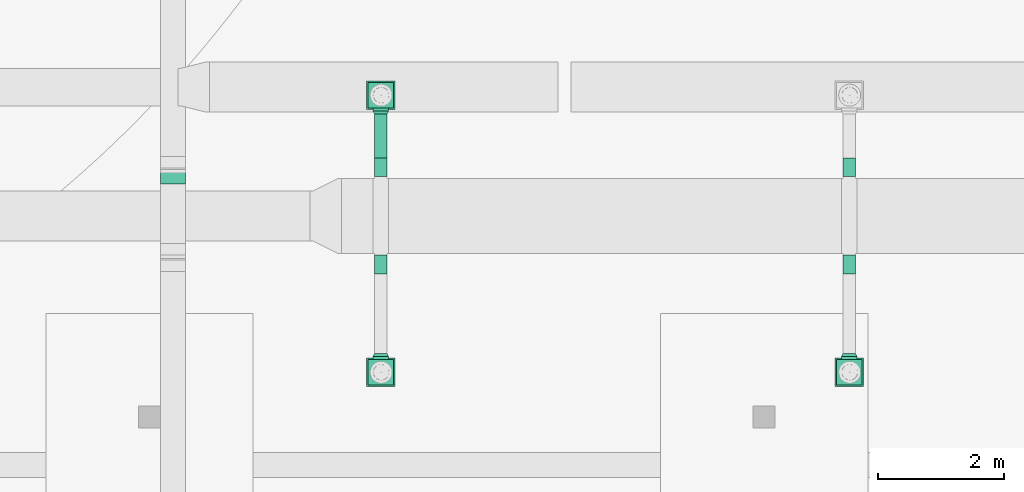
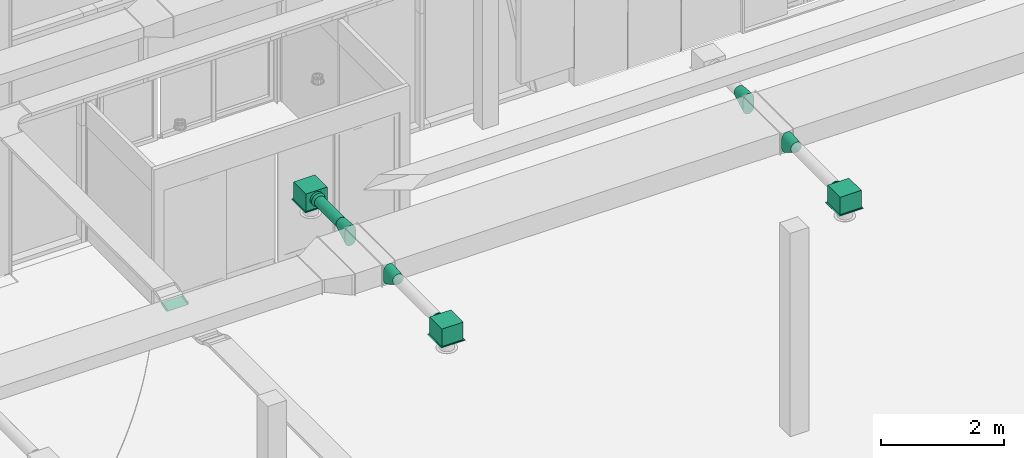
# One storey, part 282 of 302: 8 flow fittings, 3 flow terminals, 1 flow segment.
"""IFC2X3 building model written with IfcOpenShell, lengths in metres."""

from ifc_helpers import new_model, entity, si_unit, converted_unit, derived_unit, direction, frame, frame_2d, origin, origin_2d_with_axis, place, context, subcontext, project, spatial, rectangle, circle, extrude, faceted_brep, source, transform, mapped, material, material_list, type_object, type_shapes, element, save


model = new_model("IFC2X3")

# Units and contexts
model_context = context("Model", 3, precision=1e-05, world=origin(), true_north=direction((6.12303176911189e-17, 1.0)))
body_context = subcontext(model_context, "Body", "Model", "MODEL_VIEW")
ifc_project = project(units=[si_unit("LENGTHUNIT", "METRE"), si_unit("AREAUNIT", "SQUARE_METRE"), si_unit("VOLUMEUNIT", "CUBIC_METRE"), converted_unit("PLANEANGLEUNIT", "DEGREE", entity("IfcRatioMeasure", 0.0174532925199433), si_unit("PLANEANGLEUNIT", "RADIAN"), dimensions=[0, 0, 0, 0, 0, 0, 0]), si_unit("MASSUNIT", "GRAM", prefix="KILO"), derived_unit("MASSDENSITYUNIT", [(si_unit("MASSUNIT", "GRAM", prefix="KILO"), 1), (si_unit("LENGTHUNIT", "METRE"), -3)]), derived_unit("MOMENTOFINERTIAUNIT", [(si_unit("LENGTHUNIT", "METRE"), 4)]), si_unit("TIMEUNIT", "SECOND"), si_unit("FREQUENCYUNIT", "HERTZ"), si_unit("THERMODYNAMICTEMPERATUREUNIT", "DEGREE_CELSIUS"), derived_unit("THERMALTRANSMITTANCEUNIT", [(si_unit("MASSUNIT", "GRAM", prefix="KILO"), 1), (si_unit("THERMODYNAMICTEMPERATUREUNIT", "KELVIN"), -1), (si_unit("TIMEUNIT", "SECOND"), -3)]), derived_unit("VOLUMETRICFLOWRATEUNIT", [(si_unit("LENGTHUNIT", "METRE"), 3), (si_unit("TIMEUNIT", "SECOND"), -1)]), si_unit("ELECTRICCURRENTUNIT", "AMPERE"), si_unit("ELECTRICVOLTAGEUNIT", "VOLT"), si_unit("POWERUNIT", "WATT"), si_unit("FORCEUNIT", "NEWTON", prefix="KILO"), si_unit("ILLUMINANCEUNIT", "LUX"), si_unit("LUMINOUSFLUXUNIT", "LUMEN"), si_unit("LUMINOUSINTENSITYUNIT", "CANDELA"), derived_unit("USERDEFINED", [(si_unit("MASSUNIT", "GRAM", prefix="KILO"), -1), (si_unit("LENGTHUNIT", "METRE"), -2), (si_unit("TIMEUNIT", "SECOND"), 3), (si_unit("LUMINOUSFLUXUNIT", "LUMEN"), 1)]), derived_unit("LINEARVELOCITYUNIT", [(si_unit("LENGTHUNIT", "METRE"), 1), (si_unit("TIMEUNIT", "SECOND"), -1)]), si_unit("PRESSUREUNIT", "PASCAL"), derived_unit("USERDEFINED", [(si_unit("LENGTHUNIT", "METRE"), -2), (si_unit("MASSUNIT", "GRAM", prefix="KILO"), 1), (si_unit("TIMEUNIT", "SECOND"), -2)]), derived_unit("LINEARFORCEUNIT", [(si_unit("MASSUNIT", "GRAM", prefix="KILO"), 1), (si_unit("LENGTHUNIT", "METRE"), 1), (si_unit("TIMEUNIT", "SECOND"), -2), (si_unit("LENGTHUNIT", "METRE"), -1)]), derived_unit("PLANARFORCEUNIT", [(si_unit("MASSUNIT", "GRAM", prefix="KILO"), 1), (si_unit("LENGTHUNIT", "METRE"), 1), (si_unit("TIMEUNIT", "SECOND"), -2), (si_unit("LENGTHUNIT", "METRE"), -2)])], contexts=[model_context])

# Site, building, storey
site_placement = place(None, origin())
site = spatial("IfcSite", under=ifc_project, at=site_placement, Name="Default", CompositionType="ELEMENT")
building_placement = place(site_placement, origin())
building = spatial("IfcBuilding", under=site, at=building_placement, CompositionType="ELEMENT")
storey_placement = place(building_placement, frame((0.0, 0.0, -1.3)))
storey = spatial("IfcBuildingStorey", under=building, at=storey_placement, Name="00_EG", CompositionType="ELEMENT", Elevation=-1.3)

# Flow fitting
ifc_material = material(Name="<Unnamed>")
cable_carrier_fitting_type = type_object("IfcCableCarrierFittingType", Name="Kabeltrasse - Bogen innen vertikal:Standard", PredefinedType="NOTDEFINED", material=ifc_material)
shared_shape_1 = source(origin(), body_context, "Body", "Brep", [
    faceted_brep([(-0.103233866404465, -0.0299999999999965, 0.199999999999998), (-0.103233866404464, 0.0300000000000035, 0.199999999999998), (-0.103233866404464, 0.0300000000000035, -0.200000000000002), (-0.103233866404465, -0.0299999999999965, -0.200000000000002), (-0.103233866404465, -0.0299999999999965, -0.197460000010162), (-0.103233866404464, 0.0274600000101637, -0.197460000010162), (-0.103233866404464, 0.0274600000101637, 0.197460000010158), (-0.103233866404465, -0.0299999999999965, 0.197460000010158), (0.0783623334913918, -0.0735973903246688, 0.199999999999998), (0.0783623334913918, -0.0735973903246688, 0.197460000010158), (0.104448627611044, -0.0224001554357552, 0.197460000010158), (0.104448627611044, -0.0224001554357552, -0.197460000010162), (0.0783623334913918, -0.0735973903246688, -0.197460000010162), (0.0783623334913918, -0.0735973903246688, -0.200000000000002), (0.10560176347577, -0.0201369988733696, -0.200000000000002), (0.10560176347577, -0.0201369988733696, 0.199999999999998), (-0.0558907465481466, -0.0299999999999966, 0.197460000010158), (-0.0558907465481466, -0.0299999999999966, 0.199999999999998), (-0.0490899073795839, 0.0274600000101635, 0.197460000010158), (0.0562060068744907, 0.00218068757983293, 0.197460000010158), (0.036179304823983, -0.0521040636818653, 0.197460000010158), (-0.0490899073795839, 0.0274600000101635, -0.197460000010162), (-0.0558907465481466, -0.0299999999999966, -0.197460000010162), (0.036179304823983, -0.0521040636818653, -0.197460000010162), (0.0562060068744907, 0.00218068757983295, -0.197460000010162), (-0.0558907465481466, -0.0299999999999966, -0.200000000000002), (-0.0487892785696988, 0.0300000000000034, -0.200000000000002), (0.0570912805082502, 0.00458032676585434, -0.200000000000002), (0.036179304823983, -0.0521040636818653, -0.200000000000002), (-0.0487892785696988, 0.0300000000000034, 0.199999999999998), (0.036179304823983, -0.0521040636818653, 0.199999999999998), (0.0570912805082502, 0.00458032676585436, 0.199999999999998)], [[[0, 1, 2, 3, 4, 5, 6, 7]], [[8, 9, 10, 11, 12, 13, 14, 15]], [[7, 16, 17, 0]], [[6, 18, 19, 10, 9, 20, 16, 7]], [[5, 21, 18, 6]], [[4, 22, 23, 12, 11, 24, 21, 5]], [[3, 25, 22, 4]], [[2, 26, 27, 14, 13, 28, 25, 3]], [[1, 29, 26, 2]], [[0, 17, 30, 8, 15, 31, 29, 1]], [[16, 20, 30, 17]], [[21, 24, 19, 18]], [[25, 28, 23, 22]], [[29, 31, 27, 26]], [[20, 9, 8, 30]], [[24, 11, 10, 19]], [[28, 13, 12, 23]], [[31, 15, 14, 27]]]),
])
type_shapes(cable_carrier_fitting_type, [shared_shape_1])
flow_fitting_1_placement = place(storey_placement, frame((-236.772611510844, 39.2175006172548, 4.73000000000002), z_axis=(1.0, 0.0, 0.0), x_axis=(0.0, -0.89100652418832, -0.453990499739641)))
element("IfcFlowFitting", 1, at=flow_fitting_1_placement, inside=storey, type_object=cable_carrier_fitting_type, material=ifc_material, Name="Kabeltrasse - Bogen innen vertikal:Standard", ObjectType="Kabeltrasse - Bogen innen vertikal:Standard", context=body_context, shape_type="MappedRepresentation", body=[
    mapped(shared_shape_1, transform((0.0, 0.0, 0.0), scale=1.0)),
])

# Flow segment
duct_segment_type = type_object("IfcDuctSegmentType", Name="Rund:STR_Segment_RND_GS_EA", PredefinedType="NOTDEFINED")
flow_segment_placement = place(storey_placement, origin())
element("IfcFlowSegment", 2, at=flow_segment_placement, inside=storey, type_object=duct_segment_type, Name="Rund:STR_Segment_RND_GS_EA", ObjectType="Rund:STR_Segment_RND_GS_EA", context=body_context, shape_type="SweptSolid", body=[
    extrude(circle(Radius=0.1, at=frame_2d((0.0, -1.62430069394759e-15), x_axis=(1.0, 0.0))), frame((-233.465645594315, 39.5332258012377, 4.985), z_axis=(0.0, 1.0, 0.0), x_axis=(-1.0, 0.0, 0.0)), (0.0, 0.0, 1.0), 0.69789374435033),
])

# Flow terminal
ifc_material_list_1 = material_list([ifc_material, ifc_material, ifc_material])
air_terminal_type_1 = type_object("IfcAirTerminalType", Name="Drallauslass Zuluft seitlich:600 quadratisch", PredefinedType="NOTDEFINED", material=ifc_material_list_1)
shared_shape_2 = source(origin(), body_context, "Body", "SweptSolid", [
    extrude(rectangle(XDim=0.449999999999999, YDim=0.450000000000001, at=origin_2d_with_axis()), frame((0.0, 0.0, 2.692), z_axis=(0.0, 0.0, 1.0), x_axis=(-1.0, 0.0, 0.0)), (0.0, 0.0, 1.0), 0.00800000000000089),
    extrude(circle(Radius=0.125, at=frame_2d((1.22275294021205e-18, 0.0), x_axis=(1.0, 0.0))), frame((-0.25, 0.0, 2.89500000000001), z_axis=(1.0, 0.0, 0.0), x_axis=(0.0, 1.0, 0.0)), (0.0, 0.0, 1.0), 0.0499999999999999),
    extrude(rectangle(XDim=0.399999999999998, YDim=0.4, at=origin_2d_with_axis()), frame((0.0, 0.0, 2.7), z_axis=(0.0, 0.0, 1.0), x_axis=(-1.0, 0.0, 0.0)), (0.0, 0.0, 1.0), 0.345000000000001),
])
type_shapes(air_terminal_type_1, [shared_shape_2])
flow_terminal_placement = place(storey_placement, frame((-233.465645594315, 40.531119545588, 2.08999999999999), z_axis=(0.0, 0.0, 1.0), x_axis=(0.0, 1.0, 0.0)))
element("IfcFlowTerminal", 3, at=flow_terminal_placement, inside=storey, type_object=air_terminal_type_1, material=ifc_material, Name="Drallauslass Zuluft seitlich:600 quadratisch", ObjectType="Drallauslass Zuluft seitlich:600 quadratisch", context=body_context, shape_type="MappedRepresentation", body=[
    mapped(shared_shape_2, transform((0.0, 0.0, 0.0), scale=1.0)),
])

# Flow fittings
duct_fitting_type_1 = type_object("IfcDuctFittingType", Name="STR_RND_Transition:STR_Transition_RND_GS_EA", PredefinedType="NOTDEFINED", material=ifc_material)
shared_shape_3 = source(origin(), body_context, "Body", "Brep", [
    faceted_brep([(0.0500000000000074, -0.073473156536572, -0.1011271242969), (0.0500000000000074, -0.0386271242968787, -0.118882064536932), (0.0500000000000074, 0.0, -0.12500000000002), (0.0500000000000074, 0.0386271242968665, -0.11888206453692), (0.0500000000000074, 0.073473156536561, -0.101127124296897), (0.0500000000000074, 0.101127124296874, -0.0734731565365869), (0.0500000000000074, 0.1188820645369, -0.038627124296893), (0.0500000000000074, 0.124999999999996, 0.0), (0.0500000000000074, 0.118882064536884, 0.0386271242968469), (0.0500000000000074, 0.101127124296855, 0.073473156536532), (0.0500000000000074, 0.0734731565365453, 0.101127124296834), (0.0500000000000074, 0.0386271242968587, 0.118882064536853), (0.0500000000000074, 0.0, 0.12499999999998), (0.0500000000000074, -0.0386271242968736, 0.118882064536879), (0.0500000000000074, -0.0734731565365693, 0.101127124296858), (0.0500000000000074, -0.101127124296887, 0.0734731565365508), (0.0500000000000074, -0.118882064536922, 0.0386271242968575), (0.0500000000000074, -0.125000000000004, 0.0), (0.0500000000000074, -0.118882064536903, -0.0386271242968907), (0.0500000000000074, -0.101127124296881, -0.0734731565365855), (0.0, 0.0309016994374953, -0.0951056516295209), (0.0, 0.0, -0.100000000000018), (0.0, -0.0309016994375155, -0.0951056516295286), (0.0, -0.0587785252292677, -0.0809016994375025), (0.0, -0.0809016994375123, -0.0587785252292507), (0.0, -0.0951056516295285, -0.0309016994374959), (0.0, -0.100000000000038, 0.0), (0.0, -0.0951056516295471, 0.0309016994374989), (0.0, -0.0809016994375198, 0.0587785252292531), (0.0, -0.058778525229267, 0.0809016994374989), (0.0, -0.0309016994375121, 0.0951056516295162), (0.0, 0.0, 0.0999999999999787), (0.0, 0.0309016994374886, 0.0951056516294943), (0.0, 0.0587785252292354, 0.0809016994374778), (0.0, 0.0809016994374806, 0.0587785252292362), (0.0, 0.0951056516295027, 0.0309016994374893), (0.0, 0.0999999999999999, 0.0), (0.0, 0.0951056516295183, -0.0309016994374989), (0.0, 0.0809016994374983, -0.0587785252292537), (0.0, 0.0587785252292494, -0.0809016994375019)], [[[0, 1, 2, 3, 4, 5, 6, 7, 8, 9, 10, 11, 12, 13, 14, 15, 16, 17, 18, 19]], [[20, 21, 22, 23, 24, 25, 26, 27, 28, 29, 30, 31, 32, 33, 34, 35, 36, 37, 38, 39]], [[35, 34, 9, 8]], [[36, 35, 8, 7]], [[34, 33, 10, 9]], [[10, 33, 32, 11]], [[11, 32, 31, 12]], [[30, 29, 14, 13]], [[31, 30, 13, 12]], [[29, 28, 15, 14]], [[15, 28, 27, 16]], [[16, 27, 26, 17]], [[25, 24, 19, 18]], [[26, 25, 18, 17]], [[24, 23, 0, 19]], [[0, 23, 22, 1]], [[1, 22, 21, 2]], [[20, 39, 4, 3]], [[21, 20, 3, 2]], [[39, 38, 5, 4]], [[5, 38, 37, 6]], [[6, 37, 36, 7]]]),
])
type_shapes(duct_fitting_type_1, [shared_shape_3])
for number, where, z_axis, x_axis in (
    (4, (-233.465645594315, 36.4181484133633, 4.985), (0.0, 0.0, 1.0), (0.0, -1.0, 0.0)),
    (5, (-226.004391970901, 36.4181484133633, 4.985), (0.0, 0.0, 1.0), (0.0, -1.0, 0.0)),
):
    element("IfcFlowFitting", number, at=place(storey_placement, frame(where, z_axis=z_axis, x_axis=x_axis)), inside=storey, type_object=duct_fitting_type_1, material=ifc_material, Name="STR_RND_Transition:STR_Transition_RND_GS_EA", ObjectType="STR_RND_Transition:STR_Transition_RND_GS_EA", context=body_context, shape_type="MappedRepresentation", body=[
        mapped(shared_shape_3, transform((0.0, 0.0, 0.0), scale=1.0)),
    ])

# Flow terminals
ifc_material_list_2 = material_list([ifc_material, ifc_material, ifc_material])
air_terminal_type_2 = type_object("IfcAirTerminalType", Name="Drallauslass Zuluft seitlich:600 quadratisch", PredefinedType="NOTDEFINED", material=ifc_material_list_2)
shared_shape_4 = source(origin(), body_context, "Body", "SweptSolid", [
    extrude(rectangle(XDim=0.450000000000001, YDim=0.449999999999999, at=origin_2d_with_axis()), frame((0.0, 0.0, 2.692), z_axis=(0.0, 0.0, 1.0), x_axis=(0.0, 1.0, 0.0)), (0.0, 0.0, 1.0), 0.00800000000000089),
    extrude(circle(Radius=0.125, at=frame_2d((1.22275294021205e-18, -5.41433564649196e-16), x_axis=(1.0, 0.0))), frame((-0.25, 0.0, 2.89500000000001), z_axis=(1.0, 0.0, 0.0), x_axis=(0.0, -1.0, 0.0)), (0.0, 0.0, 1.0), 0.0499999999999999),
    extrude(rectangle(XDim=0.4, YDim=0.399999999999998, at=origin_2d_with_axis()), frame((0.0, 0.0, 2.7), z_axis=(0.0, 0.0, 1.0), x_axis=(0.0, 1.0, 0.0)), (0.0, 0.0, 1.0), 0.345000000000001),
])
type_shapes(air_terminal_type_2, [shared_shape_4])
for number, where, z_axis, x_axis, name in (
    (6, (-233.465645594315, 36.1181484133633, 2.09), (0.0, 0.0, 1.0), (0.0, -1.0, 0.0), "Drallauslass Zuluft seitlich:600 quadratisch"),
    (7, (-226.004391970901, 36.1181484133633, 2.09), (0.0, 0.0, 1.0), (0.0, -1.0, 0.0), "Drallauslass Zuluft seitlich:600 quadratisch"),
):
    element("IfcFlowTerminal", number, at=place(storey_placement, frame(where, z_axis=z_axis, x_axis=x_axis)), inside=storey, type_object=air_terminal_type_2, material=ifc_material, Name=name, ObjectType="Drallauslass Zuluft seitlich:600 quadratisch", context=body_context, shape_type="MappedRepresentation", body=[
        mapped(shared_shape_4, transform((0.0, 0.0, 0.0), scale=1.0)),
    ])

# Flow fittings
duct_fitting_type_2 = type_object("IfcDuctFittingType", Name="STR_RND_Transition:STR_Transition_RND_GS_EA", PredefinedType="NOTDEFINED", material=ifc_material)
shared_shape_5 = source(origin(), body_context, "Body", "Brep", [
    faceted_brep([(0.0500000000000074, -0.0587785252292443, -0.0809016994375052), (0.0500000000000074, -0.0309016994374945, -0.0951056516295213), (0.0500000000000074, 0.0, -0.10000000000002), (0.0500000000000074, 0.0309016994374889, -0.0951056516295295), (0.0500000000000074, 0.058778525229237, -0.0809016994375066), (0.0500000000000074, 0.0809016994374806, -0.0587785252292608), (0.0500000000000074, 0.0951056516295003, -0.0309016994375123), (0.0500000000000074, 0.0999999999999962, 0.0), (0.0500000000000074, 0.0951056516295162, 0.0309016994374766), (0.0500000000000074, 0.0809016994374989, 0.0587785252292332), (0.0500000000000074, 0.0587785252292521, 0.0809016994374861), (0.0500000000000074, 0.0309016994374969, 0.0951056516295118), (0.0500000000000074, 0.0, 0.0999999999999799), (0.0500000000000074, -0.0309016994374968, 0.0951056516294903), (0.0500000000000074, -0.058778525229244, 0.0809016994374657), (0.0500000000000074, -0.0809016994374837, 0.0587785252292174), (0.0500000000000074, -0.0951056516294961, 0.0309016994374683), (0.0500000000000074, -0.100000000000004, 0.0), (0.0500000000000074, -0.0951056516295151, -0.030901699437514), (0.0500000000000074, -0.0809016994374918, -0.0587785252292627), (0.0, -0.124999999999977, 0.0), (0.0, -0.118882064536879, 0.038627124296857), (0.0, -0.101127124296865, 0.073473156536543), (0.0, -0.0734731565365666, 0.101127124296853), (0.0, -0.0386271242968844, 0.118882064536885), (0.0, 0.0, 0.125000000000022), (0.0, 0.0386271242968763, 0.11888206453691), (0.0, 0.0734731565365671, 0.101127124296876), (0.0, 0.101127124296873, 0.0734731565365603), (0.0, 0.118882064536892, 0.038627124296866), (0.0, 0.124999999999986, 0.0), (0.0, 0.118882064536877, -0.0386271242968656), (0.0, 0.101127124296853, -0.0734731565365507), (0.0, 0.0734731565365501, -0.101127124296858), (0.0, 0.0386271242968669, -0.118882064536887), (0.0, 0.0, -0.124999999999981), (0.0, -0.0386271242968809, -0.118882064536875), (0.0, -0.0734731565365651, -0.101127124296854), (0.0, -0.101127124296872, -0.0734731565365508), (0.0, -0.118882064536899, -0.0386271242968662)], [[[0, 1, 2, 3, 4, 5, 6, 7, 8, 9, 10, 11, 12, 13, 14, 15, 16, 17, 18, 19]], [[20, 21, 22, 23, 24, 25, 26, 27, 28, 29, 30, 31, 32, 33, 34, 35, 36, 37, 38, 39]], [[26, 25, 12, 11]], [[27, 26, 11, 10]], [[10, 9, 28, 27]], [[8, 7, 30, 29]], [[9, 8, 29, 28]], [[21, 20, 17, 16]], [[22, 21, 16, 15]], [[15, 14, 23, 22]], [[13, 12, 25, 24]], [[14, 13, 24, 23]], [[36, 35, 2, 1]], [[37, 36, 1, 0]], [[0, 19, 38, 37]], [[18, 17, 20, 39]], [[19, 18, 39, 38]], [[31, 30, 7, 6]], [[32, 31, 6, 5]], [[5, 4, 33, 32]], [[3, 2, 35, 34]], [[4, 3, 34, 33]]]),
])
type_shapes(duct_fitting_type_2, [shared_shape_5])
flow_fitting_2_placement = place(storey_placement, frame((-233.465645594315, 40.281119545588, 4.985), z_axis=(0.0, 0.0, 1.0), x_axis=(0.0, -1.0, 0.0)))
element("IfcFlowFitting", 8, at=flow_fitting_2_placement, inside=storey, type_object=duct_fitting_type_2, material=ifc_material, Name="STR_RND_Transition:STR_Transition_RND_GS_EA", ObjectType="STR_RND_Transition:STR_Transition_RND_GS_EA", context=body_context, shape_type="MappedRepresentation", body=[
    mapped(shared_shape_5, transform((0.0, 0.0, 0.0), scale=1.0)),
])
duct_fitting_type_3 = type_object("IfcDuctFittingType", Name="STR_OVL_Transition:STR_Transition_OVL_GS_EA", PredefinedType="NOTDEFINED", material=ifc_material)
shared_shape_6 = source(origin(), body_context, "Body", "Brep", [
    faceted_brep([(0.300000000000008, 0.0999999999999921, 0.0765874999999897), (0.300000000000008, 0.0966466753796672, 0.102058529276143), (0.300000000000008, 0.0868152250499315, 0.125793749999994), (0.300000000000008, 0.0711756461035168, 0.146175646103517), (0.300000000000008, 0.0507937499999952, 0.161815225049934), (0.300000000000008, 0.0270585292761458, 0.171646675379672), (0.300000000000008, 0.00158749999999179, 0.175), (0.300000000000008, -0.00158750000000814, 0.175), (0.300000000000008, -0.0270585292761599, 0.171646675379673), (0.300000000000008, -0.0507937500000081, 0.161815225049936), (0.300000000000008, -0.0711756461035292, 0.146175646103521), (0.300000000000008, -0.0868152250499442, 0.12579375), (0.300000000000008, -0.0966466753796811, 0.102058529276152), (0.300000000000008, -0.100000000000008, 0.0765874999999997), (0.300000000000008, -0.100000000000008, 0.0734124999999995), (0.300000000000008, -0.0966466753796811, 0.0479414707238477), (0.300000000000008, -0.0868152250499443, 0.0242062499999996), (0.300000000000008, -0.0711756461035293, 0.00382435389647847), (0.300000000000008, -0.0507937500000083, -0.0118152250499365), (0.300000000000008, -0.0270585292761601, -0.0216466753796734), (0.300000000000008, -0.00158750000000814, -0.0250000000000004), (0.300000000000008, 0.0015874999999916, -0.0250000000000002), (0.300000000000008, 0.0270585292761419, -0.0216466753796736), (0.300000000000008, 0.0507937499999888, -0.011815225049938), (0.300000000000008, 0.0711756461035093, 0.00382435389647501), (0.300000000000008, 0.0868152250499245, 0.0242062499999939), (0.300000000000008, 0.0966466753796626, 0.0479414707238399), (0.300000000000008, 0.0999999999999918, 0.0734124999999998), (0.0, 0.0507937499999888, -0.186815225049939), (0.0, 0.0270585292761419, -0.196646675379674), (0.0, 0.00158749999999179, -0.200000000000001), (0.0, -0.00158750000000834, -0.200000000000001), (0.0, -0.0270585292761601, -0.196646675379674), (0.0, -0.0507937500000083, -0.186815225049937), (0.0, -0.0711756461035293, -0.171175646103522), (0.0, -0.0868152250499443, -0.150793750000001), (0.0, -0.0966466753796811, -0.127058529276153), (0.0, -0.100000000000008, -0.101587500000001), (0.0, -0.100000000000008, 0.101587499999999), (0.0, -0.0966466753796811, 0.127058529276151), (0.0, -0.0868152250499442, 0.150793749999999), (0.0, -0.0711756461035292, 0.17117564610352), (0.0, -0.0507937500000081, 0.186815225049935), (0.0, -0.0270585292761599, 0.196646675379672), (0.0, -0.00158750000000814, 0.199999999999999), (0.0, 0.00158749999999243, 0.199999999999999), (0.0, 0.0270585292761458, 0.196646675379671), (0.0, 0.0507937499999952, 0.186815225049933), (0.0, 0.0711756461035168, 0.171175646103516), (0.0, 0.0868152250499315, 0.150793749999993), (0.0, 0.0966466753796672, 0.127058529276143), (0.0, 0.100000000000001, 0.101587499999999), (0.0, 0.0999999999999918, -0.101587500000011), (0.0, 0.0966466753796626, -0.127058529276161), (0.0, 0.0868152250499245, -0.150793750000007), (0.0, 0.0711756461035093, -0.171175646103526), (0.154247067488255, -0.0203412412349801, 0.185342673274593), (0.145752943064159, -0.0981965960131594, 0.10819516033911), (0.107489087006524, -0.00158750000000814, 0.191042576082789), (0.149999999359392, -0.0614972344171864, 0.167163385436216), (0.15000000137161, -0.0392483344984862, 0.180008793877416), (0.150000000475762, -0.0796633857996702, 0.148997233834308), (0.192510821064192, -0.100000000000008, 0.0855449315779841), (0.149999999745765, -0.0925087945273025, 0.126748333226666), (0.0998539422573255, -0.100000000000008, -0.0433393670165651), (0.15000000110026, -0.0925087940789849, -0.0517483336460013), (0.150000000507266, -0.061497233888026, -0.0921633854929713), (0.149999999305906, -0.0796633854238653, -0.073997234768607), (0.153474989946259, -0.0982242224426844, -0.0306712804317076), (0.153474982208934, -0.0201983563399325, -0.108697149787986), (0.0998539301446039, -0.00158750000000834, -0.141751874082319), (0.149999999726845, -0.0392483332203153, -0.105008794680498), (0.0998539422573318, 0.0015874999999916, -0.141751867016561), (0.15000000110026, 0.0392483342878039, -0.105008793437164), (0.150000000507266, 0.0796633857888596, -0.0739972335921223), (0.149999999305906, 0.0614972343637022, -0.0921633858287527), (0.153474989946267, 0.020198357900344, -0.108697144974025), (0.153474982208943, 0.0982242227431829, -0.030671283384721), (0.0998539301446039, 0.0999999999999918, -0.0433393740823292), (0.149999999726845, 0.0925087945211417, -0.0517483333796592), (0.107489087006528, 0.0999999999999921, 0.0926300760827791), (0.154247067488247, 0.0981965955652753, 0.107487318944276), (0.145752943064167, 0.0203412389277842, 0.18605051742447), (0.149999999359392, 0.079663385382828, 0.148997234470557), (0.15000000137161, 0.0925087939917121, 0.12674833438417), (0.150000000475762, 0.0614972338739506, 0.167163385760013), (0.192510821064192, 0.00158749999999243, 0.183957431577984), (0.149999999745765, 0.0392483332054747, 0.18000879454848)], [[[0, 1, 2, 3, 4, 5, 6, 7, 8, 9, 10, 11, 12, 13, 14, 15, 16, 17, 18, 19, 20, 21, 22, 23, 24, 25, 26, 27]], [[28, 29, 30, 31, 32, 33, 34, 35, 36, 37, 38, 39, 40, 41, 42, 43, 44, 45, 46, 47, 48, 49, 50, 51, 52, 53, 54, 55]], [[56, 44, 43]], [[38, 57, 39]], [[56, 7, 58, 44]], [[42, 41, 59]], [[43, 60, 56]], [[59, 60, 42]], [[61, 59, 41]], [[43, 42, 60]], [[8, 56, 60]], [[10, 9, 59]], [[9, 60, 59]], [[57, 38, 62, 13]], [[40, 39, 63]], [[63, 61, 40]], [[12, 57, 13]], [[12, 63, 57]], [[9, 8, 60]], [[10, 61, 11]], [[12, 11, 63]], [[63, 11, 61]], [[39, 57, 63]], [[61, 10, 59]], [[61, 41, 40]], [[7, 56, 8]], [[14, 13, 62, 38, 37, 64]], [[36, 35, 65]], [[66, 67, 34]], [[36, 68, 64]], [[35, 34, 67]], [[36, 64, 37]], [[20, 69, 70]], [[67, 65, 35]], [[31, 70, 32]], [[68, 65, 15]], [[16, 15, 65]], [[16, 65, 67]], [[32, 69, 71]], [[33, 32, 71]], [[71, 66, 33]], [[19, 69, 20]], [[69, 19, 71]], [[36, 65, 68]], [[17, 66, 18]], [[19, 18, 71]], [[71, 18, 66]], [[70, 69, 32]], [[14, 64, 68]], [[66, 17, 67]], [[66, 34, 33]], [[14, 68, 15]], [[17, 16, 67]], [[30, 72, 21, 20, 70, 31]], [[29, 28, 73]], [[74, 75, 55]], [[29, 76, 72]], [[28, 55, 75]], [[29, 72, 30]], [[27, 77, 78]], [[75, 73, 28]], [[52, 78, 53]], [[76, 73, 22]], [[23, 22, 73]], [[23, 73, 75]], [[53, 77, 79]], [[54, 53, 79]], [[79, 74, 54]], [[26, 77, 27]], [[77, 26, 79]], [[29, 73, 76]], [[24, 74, 25]], [[26, 25, 79]], [[79, 25, 74]], [[78, 77, 53]], [[21, 72, 76]], [[74, 24, 75]], [[74, 55, 54]], [[21, 76, 22]], [[24, 23, 75]], [[51, 80, 0, 27, 78, 52]], [[81, 51, 50]], [[45, 82, 46]], [[81, 0, 80, 51]], [[49, 48, 83]], [[50, 84, 81]], [[83, 84, 49]], [[85, 83, 48]], [[50, 49, 84]], [[1, 81, 84]], [[3, 2, 83]], [[2, 84, 83]], [[82, 45, 86, 6]], [[47, 46, 87]], [[87, 85, 47]], [[5, 82, 6]], [[5, 87, 82]], [[2, 1, 84]], [[3, 85, 4]], [[5, 4, 87]], [[87, 4, 85]], [[46, 82, 87]], [[85, 3, 83]], [[85, 48, 47]], [[0, 81, 1]], [[44, 58, 7, 6, 86, 45]]]),
])
type_shapes(duct_fitting_type_3, [shared_shape_6])
for number, where, z_axis, x_axis in (
    (9, (-233.465645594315, 39.2332258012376, 4.91), (0.0, 0.0, 1.0), (0.0, 1.0, 0.0)),
    (10, (-233.465645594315, 37.9832258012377, 4.91), (0.0, 0.0, 1.0), (0.0, -1.0, 0.0)),
    (11, (-226.004391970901, 39.2332258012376, 4.91), (0.0, 0.0, 1.0), (0.0, 1.0, 0.0)),
    (12, (-226.004391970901, 37.9832258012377, 4.91), (0.0, 0.0, 1.0), (0.0, -1.0, 0.0)),
):
    element("IfcFlowFitting", number, at=place(storey_placement, frame(where, z_axis=z_axis, x_axis=x_axis)), inside=storey, type_object=duct_fitting_type_3, material=ifc_material, Name="STR_OVL_Transition:STR_Transition_OVL_GS_EA", ObjectType="STR_OVL_Transition:STR_Transition_OVL_GS_EA", context=body_context, shape_type="MappedRepresentation", body=[
        mapped(shared_shape_6, transform((0.0, 0.0, 0.0), scale=1.0)),
    ])

save(model, "model.ifc")
